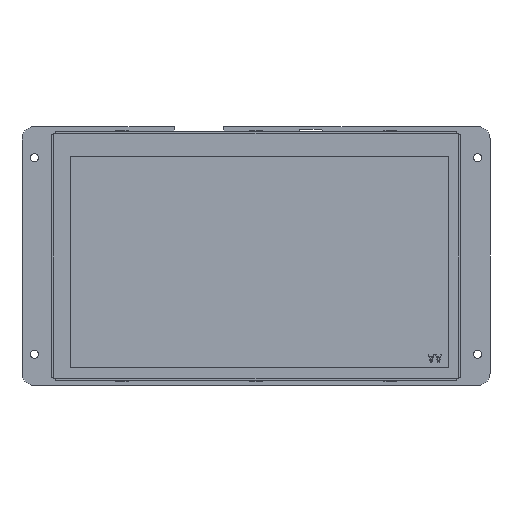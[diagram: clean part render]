
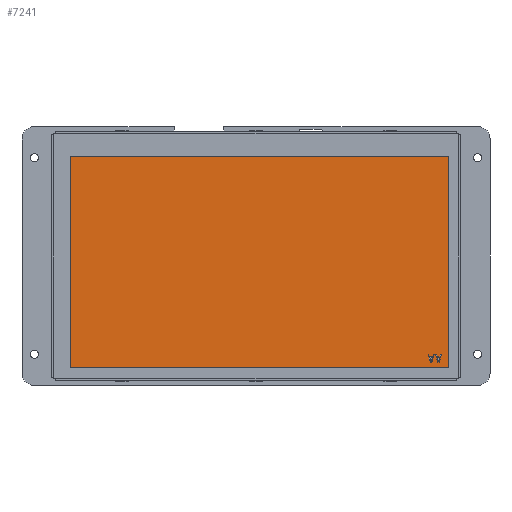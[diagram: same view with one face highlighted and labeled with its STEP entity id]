
A CAD part, front view. The second image highlights one B-rep face of the part: STEP entity #7241.
In plain terms, the highlighted planar face has unit normal (0, -1, 0) as drawn and (0, 1, 0) by its records, which use the part's own axes.
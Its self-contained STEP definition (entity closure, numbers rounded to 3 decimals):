
#6524=DIRECTION('',(0.,0.,1.));
#6525=VECTOR('',#6524,85.92);
#6526=CARTESIAN_POINT('',(-78.53,1.675,-45.22));
#6527=LINE('',#6526,#6525);
#6531=DIRECTION('',(-1.,0.,0.));
#6532=VECTOR('',#6531,154.08);
#6533=CARTESIAN_POINT('',(75.55,1.675,-45.22));
#6534=LINE('',#6533,#6532);
#6538=DIRECTION('',(0.,0.,-1.));
#6539=VECTOR('',#6538,85.92);
#6540=CARTESIAN_POINT('',(75.55,1.675,40.7));
#6541=LINE('',#6540,#6539);
#6545=DIRECTION('',(1.,0.,0.));
#6546=VECTOR('',#6545,154.08);
#6547=CARTESIAN_POINT('',(-78.53,1.675,40.7));
#6548=LINE('',#6547,#6546);
#6552=DIRECTION('',(0.316,0.,0.949));
#6553=VECTOR('',#6552,3.162);
#6554=CARTESIAN_POINT('',(-74.03,1.675,-43.22));
#6555=LINE('',#6554,#6553);
#6559=DIRECTION('',(1.,0.,0.));
#6560=VECTOR('',#6559,0.5);
#6561=CARTESIAN_POINT('',(-74.53,1.675,-43.22));
#6562=LINE('',#6561,#6560);
#6566=DIRECTION('',(0.316,0.,-0.949));
#6567=VECTOR('',#6566,3.162);
#6568=CARTESIAN_POINT('',(-75.53,1.675,-40.22));
#6569=LINE('',#6568,#6567);
#6573=DIRECTION('',(-1.,0.,0.));
#6574=VECTOR('',#6573,0.375);
#6575=CARTESIAN_POINT('',(-75.155,1.675,-40.22));
#6576=LINE('',#6575,#6574);
#6580=DIRECTION('',(-0.31,0.,0.951));
#6581=VECTOR('',#6580,0.806);
#6582=CARTESIAN_POINT('',(-74.905,1.675,-40.986));
#6583=LINE('',#6582,#6581);
#6587=DIRECTION('',(-1.,0.,0.));
#6588=VECTOR('',#6587,1.25);
#6589=CARTESIAN_POINT('',(-73.655,1.675,-40.986));
#6590=LINE('',#6589,#6588);
#6594=DIRECTION('',(-0.31,0.,-0.951));
#6595=VECTOR('',#6594,0.806);
#6596=CARTESIAN_POINT('',(-73.405,1.675,-40.22));
#6597=LINE('',#6596,#6595);
#6601=DIRECTION('',(-1.,0.,0.));
#6602=VECTOR('',#6601,0.375);
#6603=CARTESIAN_POINT('',(-73.03,1.675,-40.22));
#6604=LINE('',#6603,#6602);
#6629=DIRECTION('',(0.316,0.,0.949));
#6630=VECTOR('',#6629,3.162);
#6631=CARTESIAN_POINT('',(-71.03,1.675,-43.22));
#6632=LINE('',#6631,#6630);
#6636=DIRECTION('',(1.,0.,0.));
#6637=VECTOR('',#6636,0.5);
#6638=CARTESIAN_POINT('',(-71.53,1.675,-43.22));
#6639=LINE('',#6638,#6637);
#6643=DIRECTION('',(0.316,0.,-0.949));
#6644=VECTOR('',#6643,3.162);
#6645=CARTESIAN_POINT('',(-72.53,1.675,-40.22));
#6646=LINE('',#6645,#6644);
#6650=DIRECTION('',(-1.,0.,0.));
#6651=VECTOR('',#6650,0.375);
#6652=CARTESIAN_POINT('',(-72.155,1.675,-40.22));
#6653=LINE('',#6652,#6651);
#6657=DIRECTION('',(-0.31,0.,0.951));
#6658=VECTOR('',#6657,0.806);
#6659=CARTESIAN_POINT('',(-71.905,1.675,-40.986));
#6660=LINE('',#6659,#6658);
#6664=DIRECTION('',(-1.,0.,0.));
#6665=VECTOR('',#6664,1.25);
#6666=CARTESIAN_POINT('',(-70.655,1.675,-40.986));
#6667=LINE('',#6666,#6665);
#6671=DIRECTION('',(-0.31,0.,-0.951));
#6672=VECTOR('',#6671,0.806);
#6673=CARTESIAN_POINT('',(-70.405,1.675,-40.22));
#6674=LINE('',#6673,#6672);
#6678=DIRECTION('',(-1.,0.,0.));
#6679=VECTOR('',#6678,0.375);
#6680=CARTESIAN_POINT('',(-70.03,1.675,-40.22));
#6681=LINE('',#6680,#6679);
#6876=CARTESIAN_POINT('',(-78.53,1.675,-45.22));
#6877=CARTESIAN_POINT('',(-78.53,1.675,40.7));
#6878=VERTEX_POINT('',#6876);
#6879=VERTEX_POINT('',#6877);
#6880=CARTESIAN_POINT('',(75.55,1.675,40.7));
#6881=VERTEX_POINT('',#6880);
#6882=CARTESIAN_POINT('',(75.55,1.675,-45.22));
#6883=VERTEX_POINT('',#6882);
#6884=CARTESIAN_POINT('',(-74.03,1.675,-43.22));
#6885=CARTESIAN_POINT('',(-73.03,1.675,-40.22));
#6886=VERTEX_POINT('',#6884);
#6887=VERTEX_POINT('',#6885);
#6888=CARTESIAN_POINT('',(-73.405,1.675,-40.22));
#6889=VERTEX_POINT('',#6888);
#6890=CARTESIAN_POINT('',(-73.655,1.675,-40.986));
#6891=VERTEX_POINT('',#6890);
#6892=CARTESIAN_POINT('',(-74.905,1.675,-40.986));
#6893=VERTEX_POINT('',#6892);
#6894=CARTESIAN_POINT('',(-75.155,1.675,-40.22));
#6895=VERTEX_POINT('',#6894);
#6896=CARTESIAN_POINT('',(-75.53,1.675,-40.22));
#6897=VERTEX_POINT('',#6896);
#6898=CARTESIAN_POINT('',(-74.53,1.675,-43.22));
#6899=VERTEX_POINT('',#6898);
#6906=CARTESIAN_POINT('',(-71.03,1.675,-43.22));
#6907=CARTESIAN_POINT('',(-70.03,1.675,-40.22));
#6908=VERTEX_POINT('',#6906);
#6909=VERTEX_POINT('',#6907);
#6910=CARTESIAN_POINT('',(-70.405,1.675,-40.22));
#6911=VERTEX_POINT('',#6910);
#6912=CARTESIAN_POINT('',(-70.655,1.675,-40.986));
#6913=VERTEX_POINT('',#6912);
#6914=CARTESIAN_POINT('',(-71.905,1.675,-40.986));
#6915=VERTEX_POINT('',#6914);
#6916=CARTESIAN_POINT('',(-72.155,1.675,-40.22));
#6917=VERTEX_POINT('',#6916);
#6918=CARTESIAN_POINT('',(-72.53,1.675,-40.22));
#6919=VERTEX_POINT('',#6918);
#6920=CARTESIAN_POINT('',(-71.53,1.675,-43.22));
#6921=VERTEX_POINT('',#6920);
#7194=CARTESIAN_POINT('',(0.,1.675,0.));
#7195=DIRECTION('',(0.,1.,0.));
#7196=DIRECTION('',(1.,0.,0.));
#7197=AXIS2_PLACEMENT_3D('',#7194,#7195,#7196);
#7198=PLANE('',#7197);
#7199=ORIENTED_EDGE('',*,*,#7146,.F.);
#7200=ORIENTED_EDGE('',*,*,#7161,.F.);
#7201=ORIENTED_EDGE('',*,*,#7175,.F.);
#7202=ORIENTED_EDGE('',*,*,#7188,.F.);
#7203=EDGE_LOOP('',(#7199,#7200,#7201,#7202));
#7204=FACE_OUTER_BOUND('',#7203,.F.);
#7206=ORIENTED_EDGE('',*,*,#7205,.F.);
#7208=ORIENTED_EDGE('',*,*,#7207,.F.);
#7210=ORIENTED_EDGE('',*,*,#7209,.F.);
#7212=ORIENTED_EDGE('',*,*,#7211,.F.);
#7214=ORIENTED_EDGE('',*,*,#7213,.F.);
#7216=ORIENTED_EDGE('',*,*,#7215,.F.);
#7218=ORIENTED_EDGE('',*,*,#7217,.F.);
#7220=ORIENTED_EDGE('',*,*,#7219,.F.);
#7221=EDGE_LOOP('',(#7206,#7208,#7210,#7212,#7214,#7216,#7218,#7220));
#7222=FACE_BOUND('',#7221,.F.);
#7224=ORIENTED_EDGE('',*,*,#7223,.F.);
#7226=ORIENTED_EDGE('',*,*,#7225,.F.);
#7228=ORIENTED_EDGE('',*,*,#7227,.F.);
#7230=ORIENTED_EDGE('',*,*,#7229,.F.);
#7232=ORIENTED_EDGE('',*,*,#7231,.F.);
#7234=ORIENTED_EDGE('',*,*,#7233,.F.);
#7236=ORIENTED_EDGE('',*,*,#7235,.F.);
#7238=ORIENTED_EDGE('',*,*,#7237,.F.);
#7239=EDGE_LOOP('',(#7224,#7226,#7228,#7230,#7232,#7234,#7236,#7238));
#7240=FACE_BOUND('',#7239,.F.);
#7146=EDGE_CURVE('',#6878,#6879,#6527,.T.);
#7161=EDGE_CURVE('',#6883,#6878,#6534,.T.);
#7175=EDGE_CURVE('',#6881,#6883,#6541,.T.);
#7188=EDGE_CURVE('',#6879,#6881,#6548,.T.);
#7205=EDGE_CURVE('',#6886,#6887,#6555,.T.);
#7207=EDGE_CURVE('',#6899,#6886,#6562,.T.);
#7209=EDGE_CURVE('',#6897,#6899,#6569,.T.);
#7211=EDGE_CURVE('',#6895,#6897,#6576,.T.);
#7213=EDGE_CURVE('',#6893,#6895,#6583,.T.);
#7215=EDGE_CURVE('',#6891,#6893,#6590,.T.);
#7217=EDGE_CURVE('',#6889,#6891,#6597,.T.);
#7219=EDGE_CURVE('',#6887,#6889,#6604,.T.);
#7223=EDGE_CURVE('',#6908,#6909,#6632,.T.);
#7225=EDGE_CURVE('',#6921,#6908,#6639,.T.);
#7227=EDGE_CURVE('',#6919,#6921,#6646,.T.);
#7229=EDGE_CURVE('',#6917,#6919,#6653,.T.);
#7231=EDGE_CURVE('',#6915,#6917,#6660,.T.);
#7233=EDGE_CURVE('',#6913,#6915,#6667,.T.);
#7235=EDGE_CURVE('',#6911,#6913,#6674,.T.);
#7237=EDGE_CURVE('',#6909,#6911,#6681,.T.);
#7241=ADVANCED_FACE('',(#7204,#7222,#7240),#7198,.T.);
